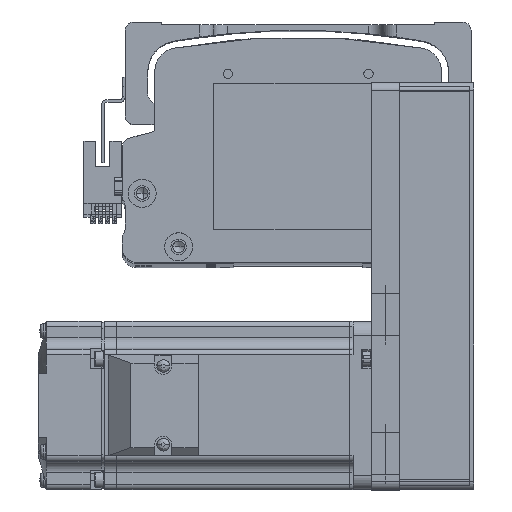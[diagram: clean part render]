
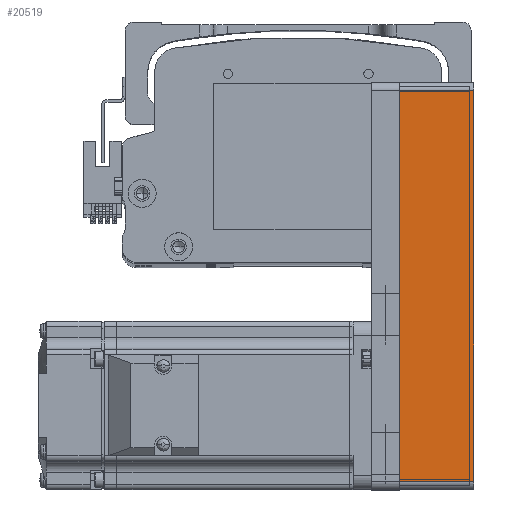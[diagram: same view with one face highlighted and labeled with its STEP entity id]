
A CAD part, top view. The second image highlights one B-rep face of the part: STEP entity #20519.
In plain terms, the highlighted planar face has unit normal (0, 0, 1) as drawn and (0, -1, 0) by its records, which use the part's own axes.
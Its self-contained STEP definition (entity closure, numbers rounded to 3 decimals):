
#3358 = VECTOR ( 'NONE', #56796, 1000. ) ;
#3574 = AXIS2_PLACEMENT_3D ( 'NONE', #3935, #48639, #10344 ) ;
#3935 = CARTESIAN_POINT ( 'NONE',  ( 72.5, -30., 26.5 ) ) ;
#9631 = LINE ( 'NONE', #66619, #24640 ) ;
#10344 = DIRECTION ( 'NONE',  ( -1., 0., 0. ) ) ;
#11930 = ORIENTED_EDGE ( 'NONE', *, *, #41995, .T. ) ;
#16539 = PLANE ( 'NONE',  #3574 ) ;
#17290 = EDGE_LOOP ( 'NONE', ( #11930, #65706, #53405, #82964 ) ) ;
#20330 = LINE ( 'NONE', #75783, #3358 ) ;
#20519 = ADVANCED_FACE ( 'NONE', ( #36133 ), #16539, .F. ) ;
#21944 = DIRECTION ( 'NONE',  ( 0., 0., 1. ) ) ;
#24640 = VECTOR ( 'NONE', #21944, 1000. ) ;
#26315 = LINE ( 'NONE', #38565, #41283 ) ;
#27248 = VERTEX_POINT ( 'NONE', #80787 ) ;
#30744 = VERTEX_POINT ( 'NONE', #39097 ) ;
#32294 = DIRECTION ( 'NONE',  ( 1., 0., 0. ) ) ;
#36133 = FACE_OUTER_BOUND ( 'NONE', #17290, .T. ) ;
#38565 = CARTESIAN_POINT ( 'NONE',  ( 72.5, -30., 26.5 ) ) ;
#39097 = CARTESIAN_POINT ( 'NONE',  ( 69.5, -30., 0. ) ) ;
#41283 = VECTOR ( 'NONE', #82992, 1000. ) ;
#41995 = EDGE_CURVE ( 'NONE', #64865, #30744, #72908, .T. ) ;
#42853 = CARTESIAN_POINT ( 'NONE',  ( 69.5, -30., 26.5 ) ) ;
#45330 = EDGE_CURVE ( 'NONE', #27248, #65331, #26315, .T. ) ;
#48639 = DIRECTION ( 'NONE',  ( 0., 1., 0. ) ) ;
#51900 = VECTOR ( 'NONE', #32294, 1000. ) ;
#53405 = ORIENTED_EDGE ( 'NONE', *, *, #45330, .F. ) ;
#56796 = DIRECTION ( 'NONE',  ( 0., 0., -1. ) ) ;
#58337 = EDGE_CURVE ( 'NONE', #30744, #65331, #9631, .T. ) ;
#64865 = VERTEX_POINT ( 'NONE', #68922 ) ;
#65331 = VERTEX_POINT ( 'NONE', #42853 ) ;
#65706 = ORIENTED_EDGE ( 'NONE', *, *, #58337, .T. ) ;
#66619 = CARTESIAN_POINT ( 'NONE',  ( 69.5, -30., 26.5 ) ) ;
#68922 = CARTESIAN_POINT ( 'NONE',  ( -69.5, -30., 0. ) ) ;
#70574 = CARTESIAN_POINT ( 'NONE',  ( 72.5, -30., 0. ) ) ;
#72908 = LINE ( 'NONE', #70574, #51900 ) ;
#75783 = CARTESIAN_POINT ( 'NONE',  ( -69.5, -30., 26.5 ) ) ;
#77348 = EDGE_CURVE ( 'NONE', #27248, #64865, #20330, .T. ) ;
#80787 = CARTESIAN_POINT ( 'NONE',  ( -69.5, -30., 26.5 ) ) ;
#82964 = ORIENTED_EDGE ( 'NONE', *, *, #77348, .T. ) ;
#82992 = DIRECTION ( 'NONE',  ( 1., 0., 0. ) ) ;
